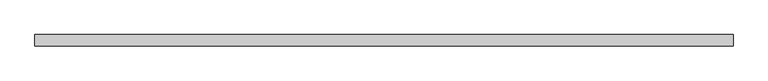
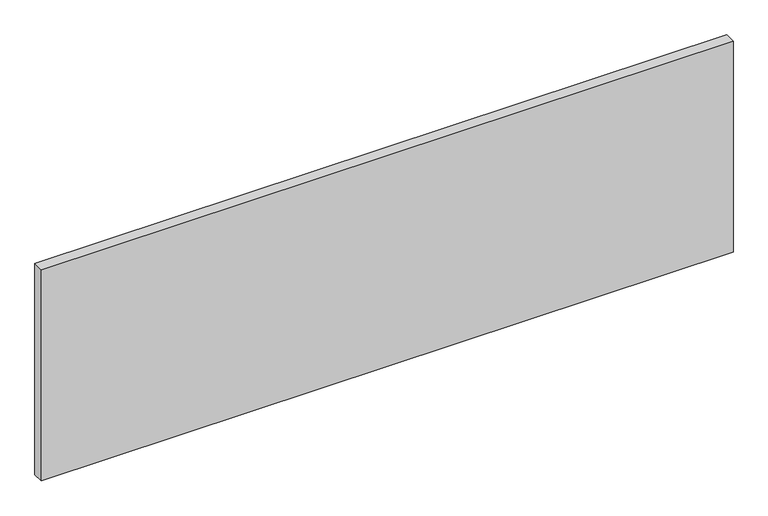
"""IFC4 building model written with IfcOpenShell, lengths in millimetres: plate geometry, Системная панель : ADSK_Cтеклопакет_25 мм."""

from ifc_helpers import new_model, si_unit, origin, origin_with_axes, place, context, project, spatial, polyline, outline, extrude, source, transform, mapped, element, save


def plate_f7cdd711(model_context):
    return source(origin(), model_context, "Body", "SweptSolid", [
        extrude(outline(polyline([(775.0227682, -12.5), (-775.0227682, -12.5), (-775.0227682, 12.5), (775.0227682, 12.5), (775.0227682, -12.5)])), origin_with_axes(), (0.0, 0.0, 1.0), 500.0),
    ])


if __name__ == "__main__":
    model = new_model("IFC4")
    model_context = context("Model", 3, world=origin())
    ifc_project = project(units=[si_unit("LENGTHUNIT", "METRE", prefix="MILLI")], contexts=[model_context])
    site = spatial("IfcSite", under=ifc_project)
    building = spatial("IfcBuilding", under=site)
    placement = place(None, origin())
    plate_shape = plate_f7cdd711(model_context)
    element("IfcPlate", 1, ObjectType="Системная панель : ADSK_Cтеклопакет_25 мм", at=placement, inside=building, context=model_context, shape_type="MappedRepresentation", body=[
        mapped(plate_shape, transform((0.0, 0.0, 0.0), x_axis=(1.0, 0.0, 0.0), y_axis=(0.0, 1.0, 0.0), z_axis=(0.0, 0.0, 1.0))),
    ])
    save(model, "model.ifc")
